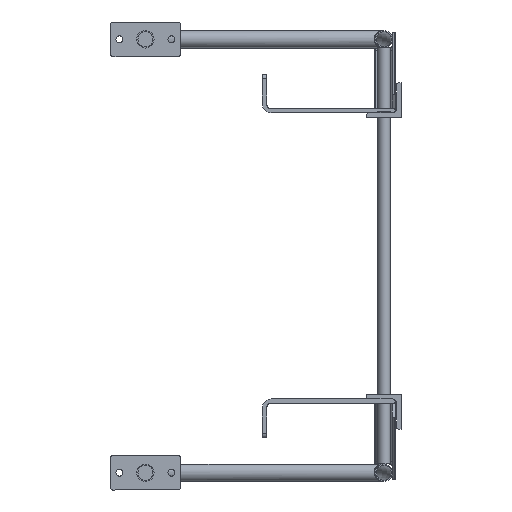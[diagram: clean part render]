
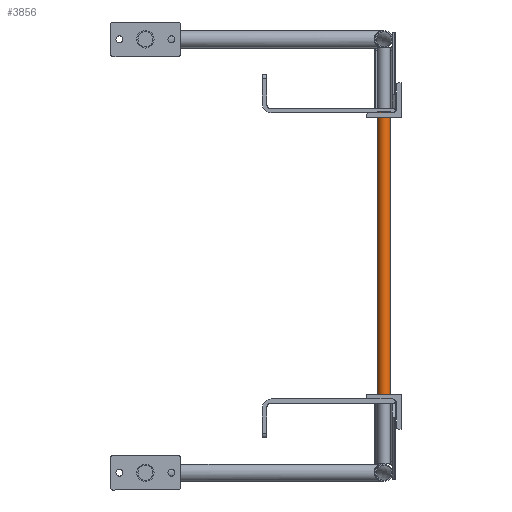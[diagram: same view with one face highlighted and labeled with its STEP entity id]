
A CAD part, front view. The second image highlights one B-rep face of the part: STEP entity #3856.
In plain terms, the highlighted cylindrical face has radius 9.525 mm (diameter 19.05 mm), a full revolution.
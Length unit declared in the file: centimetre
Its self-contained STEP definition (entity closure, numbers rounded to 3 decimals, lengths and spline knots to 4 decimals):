
#721=FACE_BOUND('',#1080,.T.);
#846=FACE_OUTER_BOUND('',#1079,.T.);
#1079=EDGE_LOOP('',(#2569));
#1080=EDGE_LOOP('',(#2570));
#1409=CIRCLE('',#4122,0.9525);
#1410=CIRCLE('',#4123,0.9525);
#1639=VERTEX_POINT('',#5990);
#1640=VERTEX_POINT('',#5992);
#2015=EDGE_CURVE('',#1639,#1639,#1409,.T.);
#2016=EDGE_CURVE('',#1640,#1640,#1410,.T.);
#2569=ORIENTED_EDGE('',*,*,#2015,.T.);
#2570=ORIENTED_EDGE('',*,*,#2016,.F.);
#3509=CYLINDRICAL_SURFACE('',#4121,0.9525);
#3856=ADVANCED_FACE('',(#846,#721),#3509,.T.);
#4121=AXIS2_PLACEMENT_3D('',#5989,#4628,#4629);
#4122=AXIS2_PLACEMENT_3D('',#5991,#4630,#4631);
#4123=AXIS2_PLACEMENT_3D('',#5993,#4632,#4633);
#4628=DIRECTION('center_axis',(0.,0.,
-1.));
#4629=DIRECTION('ref_axis',(-1.,0.,0.));
#4630=DIRECTION('center_axis',(0.,0.,
1.));
#4631=DIRECTION('ref_axis',(-1.,0.,0.));
#4632=DIRECTION('center_axis',(0.,0.,
1.));
#4633=DIRECTION('ref_axis',(-1.,0.,0.));
#5989=CARTESIAN_POINT('Origin',(-2.54,-183.8325,21.1138));
#5990=CARTESIAN_POINT('',(-1.5875,-183.8325,-20.7962));
#5991=CARTESIAN_POINT('Origin',(-2.54,-183.8325,-20.7962));
#5992=CARTESIAN_POINT('',(-1.5875,-183.8325,21.1138));
#5993=CARTESIAN_POINT('Origin',(-2.54,-183.8325,21.1138));
